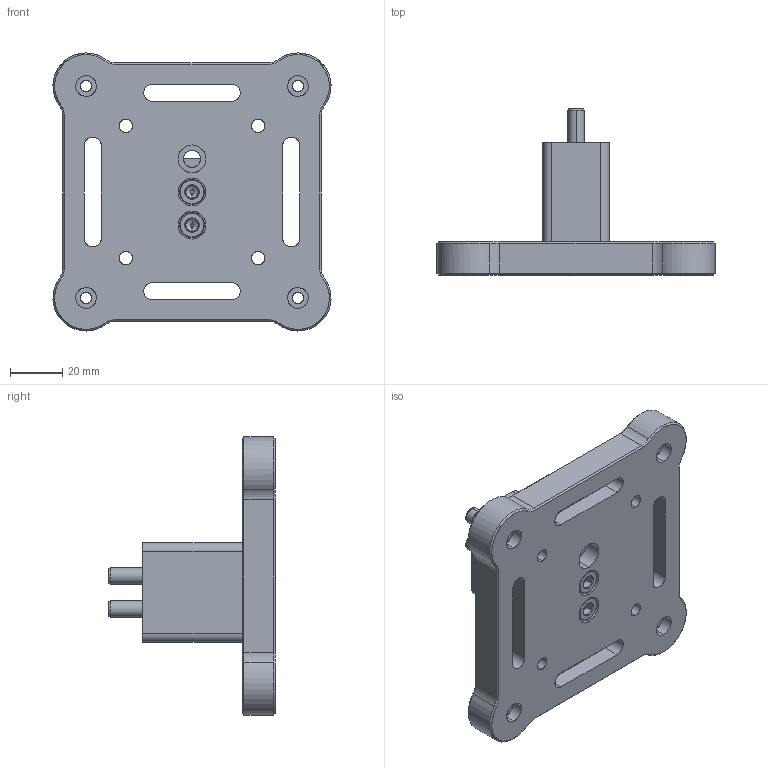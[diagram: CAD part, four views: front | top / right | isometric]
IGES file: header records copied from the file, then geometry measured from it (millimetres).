
Start section: SolidWorks IGES file using analytic representation for surfaces
Global section: file name: C:\Dropbox\Mechanical Engr\Development Projects (P)\284 TECMount\Customer Model Development\Step 4 - 284-MKIT, pedestal.IGS; native system: SolidWorks 2015; preprocessor: SolidWorks 2015; author: mhanson; date: 160205.152641; units: inch
Bounding box: 106.67 x 63.88 x 106.68 mm (x, y, z)
Surface area: 39461.5 mm2 (no closed solid volume)
Topology: 0 solids, 0 shells, 872 faces, 10776 edges, 10776 vertices
Faces by surface type: bspline 732, revolution 140
